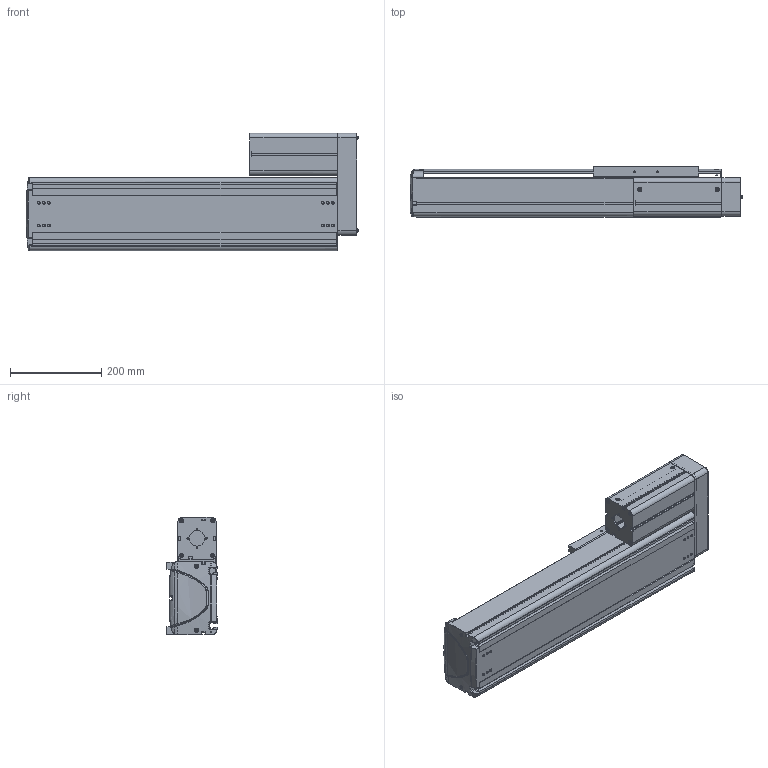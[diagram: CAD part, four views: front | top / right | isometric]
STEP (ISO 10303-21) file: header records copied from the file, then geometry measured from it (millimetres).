
FILE_DESCRIPTION((''),'2;1');
FILE_NAME('BE50F-UR-L_B-35_IGS_PRT','2017-06-18T',(' '),(''),'PRO/ENGINEER BY PARAMETRIC TECHNOLOGY CORPORATION, 2015030','PRO/ENGINEER BY PARAMETRIC TECHNOLOGY CORPORATION, 2015030','');
FILE_SCHEMA(('CONFIG_CONTROL_DESIGN'));
Length unit declared in the file: millimetre
Products named in the file (1): BE50F-UR-L_B-35_IGS_PRT
Bounding box: 725.88 x 110 x 257 mm (x, y, z)
Volume: 3925118.5 mm3; surface area: 1446136 mm2
Topology: 2 solids, 115 shells, 2147 faces, 5792 edges, 3766 vertices
Faces by surface type: plane 1000, cylinder 885, cone 119, torus 59, bspline 52, sphere 32
Entity records: 70619 total; most frequent: CARTESIAN_POINT 16005, DIRECTION 11494, ORIENTED_EDGE 11076, EDGE_CURVE 5750, AXIS2_PLACEMENT_3D 4085, VERTEX_POINT 3766, VECTOR 3324, LINE 3324
